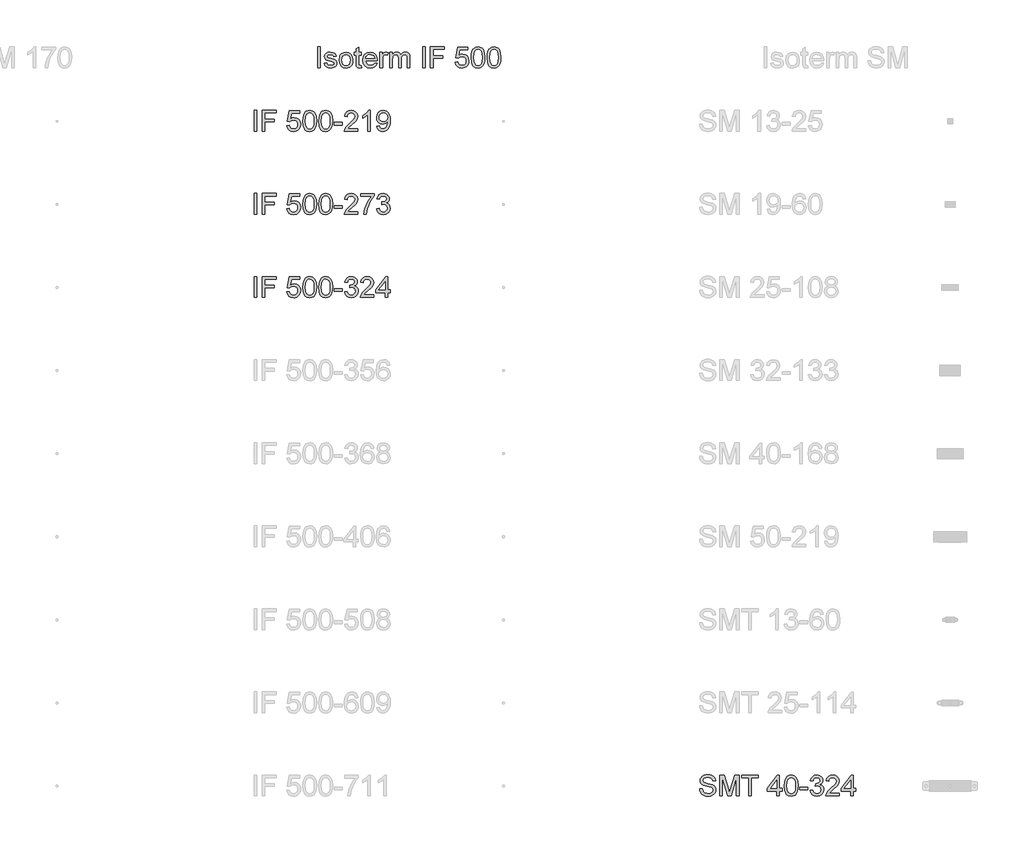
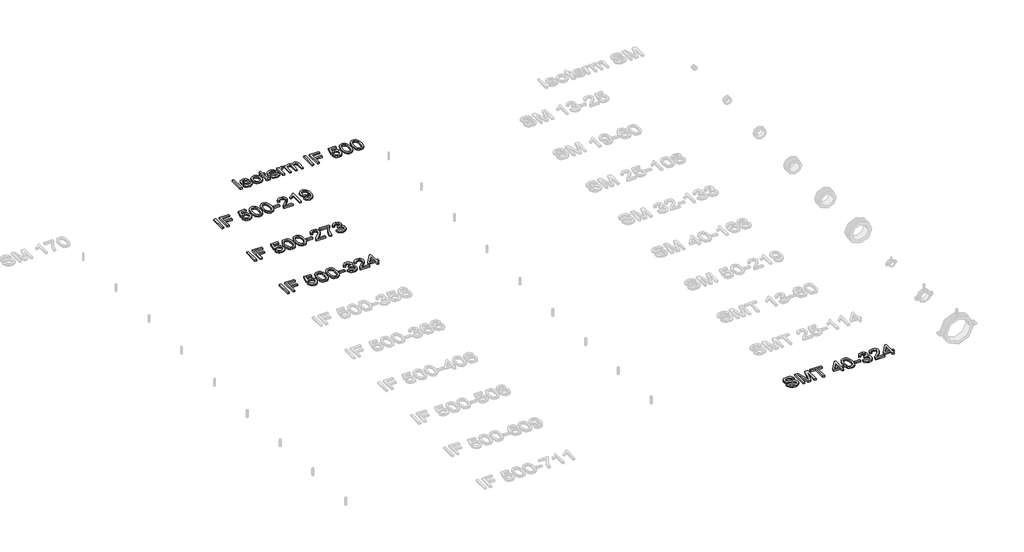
# One storey, part 5 of 10: 5 proxies.
"""IFC4 building model written with IfcOpenShell, lengths in millimetres."""

from ifc_helpers import new_model, si_unit, origin, origin_with_axes, place, context, project, spatial, polyline, outline, extrude, element, save

model = new_model("IFC4")

# Units and contexts
model_context = context("Model", 3, world=origin())
ifc_project = project(units=[si_unit("LENGTHUNIT", "METRE", prefix="MILLI")], contexts=[model_context])

# Site, building, storey
site = spatial("IfcSite", under=ifc_project)
building = spatial("IfcBuilding", under=site)
storey = spatial("IfcBuildingStorey", under=building, Name="Этаж 01", Elevation=0.0)

# Proxies
placement = place(None, origin())
element("IfcBuildingElementProxy", 1, Name="200 мм Arial", ObjectType="200 мм Arial", at=placement, inside=storey, context=model_context, shape_type="SweptSolid", body=[
    extrude(outline(polyline([(5484.860356, -183.6730679), (5484.860356, 17.2395524), (5509.9744335, 17.2395524), (5509.9744335, -183.6730679), (5484.860356, -183.6730679)])), origin_with_axes(), (0.0, 0.0, 1.0), 20.0),
    extrude(outline(polyline([(5547.6455499, -139.7234322), (5572.7596274, -136.5841725), (5576.7204902, -147.3263267), (5584.3846984, -155.2235269), (5595.801303, -160.0795692), (5611.0193549, -161.69825), (5626.0534658, -160.2144593), (5636.6239418, -155.7630872), (5642.8779357, -149.3128895), (5644.9626003, -141.8326223), (5642.8656729, -135.4314756), (5636.5748908, -130.5509078), (5610.7250493, -123.3894716), (5572.9067802, -111.102213), (5563.3357169, -104.9279268), (5556.4011413, -96.7548151), (5550.7848095, -76.4967799), (5555.2974954, -57.7838491), (5567.6092795, -43.4855022), (5583.575358, -36.0542859), (5605.1822939, -32.9886026), (5635.741025, -37.9182214), (5647.1698923, -43.7184942), (5655.1651943, -51.2600751), (5663.7981585, -73.7989786), (5638.6840809, -76.9382383), (5635.5141644, -69.0349068), (5629.2417764, -63.0813498), (5607.1443312, -58.1026802), (5592.723357, -59.2921653), (5583.1093742, -62.8606207), (5577.7015089, -68.0109686), (5575.8988871, -73.9461314), (5578.890994, -81.2547204), (5588.2597221, -86.7974758), (5609.8911834, -92.1440275), (5646.7529594, -103.9653022), (5663.8717349, -117.3562069), (5668.5254421, -127.2031816), (5670.0766778, -139.1838719), (5668.255662, -151.5692324), (5662.7926143, -163.2188289), (5653.8960014, -173.2190878), (5641.7742897, -180.6564355), (5627.1325863, -185.2733545), (5610.6759984, -186.8123276), (5585.3534544, -183.8447461), (5566.8735155, -174.9420018), (5554.5372059, -160.2021966), (5547.6455499, -139.7234322)])), origin_with_axes(), (0.0, 0.0, 1.0), 20.0),
    extrude(outline(polyline([(5692.0514957, -109.9004651), (5697.4838865, -74.3262762), (5704.274375, -60.5031102), (5713.7810589, -49.3225632), (5733.9164667, -37.0720928), (5758.0250002, -32.9886026), (5784.4082706, -37.9611409), (5805.4817775, -52.8787558), (5819.2957465, -76.564225), (5823.9004028, -107.8403259), (5821.8647891, -133.2119209), (5815.7579479, -152.5257256), (5805.757689, -166.9896194), (5792.041822, -177.8114814), (5775.750781, -184.562116), (5758.0250002, -186.8123276), (5731.3228987, -181.8581834), (5710.2739172, -166.9957508), (5696.6071011, -142.8136409), (5692.0514957, -109.9004651)]), holes=[polyline([(5717.1655732, -109.8514142), (5720.071841, -132.5803901), (5728.7906443, -148.7733293), (5741.9117688, -158.4670198), (5758.0250002, -161.69825), (5774.0646552, -158.4486257), (5787.1612542, -148.6997529), (5795.8800575, -132.2922159), (5798.7863252, -109.0665992), (5795.8616634, -86.9998109), (5787.0876778, -71.0276009), (5773.9726847, -61.3339104), (5758.0250002, -58.1026802), (5741.9117688, -61.3216476), (5728.7906443, -70.97855), (5720.071841, -87.134701), (5717.1655732, -109.8514142)])]), origin_with_axes(), (0.0, 0.0, 1.0), 20.0),
    extrude(outline(polyline([(5905.5211548, -162.7283196), (5908.6604145, -184.4088319), (5889.8739072, -186.8123276), (5868.8310571, -182.6429983), (5858.3341575, -171.7046403), (5855.2929997, -143.2060484), (5855.2929997, -61.2419399), (5836.4574415, -61.2419399), (5836.4574415, -36.1278623), (5855.2929997, -36.1278623), (5855.2929997, -0.2716305), (5880.4070772, 14.4927002), (5880.4070772, -36.1278623), (5905.5211548, -36.1278623), (5905.5211548, -61.2419399), (5880.4070772, -61.2419399), (5880.4070772, -142.4702844), (5881.7314524, -155.4197306), (5886.023409, -160.0059928), (5894.5827968, -161.69825), (5905.5211548, -162.7283196)])), origin_with_axes(), (0.0, 0.0, 1.0), 20.0),
    extrude(outline(polyline([(6033.9364965, -139.7234322), (6058.5600648, -142.8626919), (6049.6879773, -161.4162072), (6035.5306519, -175.2853584), (6016.4069195, -183.9305853), (5992.6356112, -186.8123276), (5963.1682634, -181.8397893), (5940.4944698, -166.9221744), (5926.0367074, -143.0282388), (5921.2174532, -111.1267384), (5926.0857583, -78.1522489), (5940.6906735, -53.4918925), (5963.0578988, -38.1144251), (5991.2131342, -32.9886026), (6018.4915841, -38.1021624), (6040.2885923, -53.4428416), (6054.5808078, -78.0541471), (6059.3448797, -110.9795856), (6059.1977269, -117.7486143), (5946.3315308, -117.7486143), (5950.6786697, -136.5473843), (5960.7770304, -150.3674846), (5975.3512888, -158.8655587), (5993.1261205, -161.69825), (6017.7496888, -156.4498002), (6026.8976877, -149.6439833), (6033.9364965, -139.7234322)]), holes=[polyline([(5946.3315308, -92.6345368), (6034.2308021, -92.6345368), (6030.8340251, -79.3662595), (6024.1753609, -69.874904), (6009.5336575, -61.0457361), (5991.1150323, -58.1026802), (5974.1863292, -60.4509936), (5960.1884192, -67.4959338), (5950.4579405, -78.4772113), (5946.3315308, -92.6345368)])]), origin_with_axes(), (0.0, 0.0, 1.0), 20.0),
    extrude(outline(polyline([(6084.4589572, -183.6730679), (6084.4589572, -36.1278623), (6106.4337751, -36.1278623), (6106.4337751, -57.9555274), (6122.0319717, -37.844645), (6137.7282701, -32.9886026), (6150.236258, -34.9261145), (6162.9404495, -40.73865), (6154.55274, -63.2530281), (6136.8944043, -58.1026802), (6122.6941592, -63.0568244), (6113.6442622, -76.7910855), (6109.5730348, -106.1235433), (6109.5730348, -183.6730679), (6084.4589572, -183.6730679)])), origin_with_axes(), (0.0, 0.0, 1.0), 20.0),
    extrude(outline(polyline([(6178.636748, -183.6730679), (6178.636748, -36.1278623), (6203.7508255, -36.1278623), (6203.7508255, -60.408074), (6211.3046692, -49.2551182), (6221.0167538, -40.5179208), (6232.5559857, -34.8709322), (6245.5912711, -32.9886026), (6259.5585242, -34.9077204), (6270.7543996, -40.6650736), (6279.1175836, -49.8805176), (6284.5867626, -62.1739076), (6293.7408929, -49.4053367), (6304.1826102, -40.2849289), (6315.9119145, -34.8126842), (6328.9288057, -32.9886026), (6347.8072835, -36.0236291), (6361.7684052, -45.1287085), (6370.395238, -60.5490954), (6373.2708489, -82.5300447), (6373.2708489, -183.6730679), (6348.1567714, -183.6730679), (6348.1567714, -93.3212499), (6345.8268521, -72.3519761), (6337.3900916, -62.0267548), (6323.0426938, -58.1026802), (6309.4371914, -60.6165405), (6298.3455492, -68.1581214), (6290.9695152, -81.2424577), (6288.5108372, -100.3845842), (6288.5108372, -183.6730679), (6263.3967597, -183.6730679), (6263.3967597, -90.5253467), (6261.9436258, -76.3251017), (6257.5842241, -66.1960841), (6249.9138845, -60.1260312), (6238.5279368, -58.1026802), (6219.9376333, -63.4982828), (6212.5799934, -70.1446842), (6207.5767983, -79.2926831), (6203.7508255, -109.262803), (6203.7508255, -183.6730679), (6178.636748, -183.6730679)])), origin_with_axes(), (0.0, 0.0, 1.0), 20.0),
    extrude(outline(polyline([(6495.7019769, -183.6730679), (6495.7019769, 17.2395524), (6520.8160544, 17.2395524), (6520.8160544, -183.6730679), (6495.7019769, -183.6730679)])), origin_with_axes(), (0.0, 0.0, 1.0), 20.0),
    extrude(outline(polyline([(6571.0442095, -183.6730679), (6571.0442095, 17.2395524), (6706.0323763, 17.2395524), (6706.0323763, -7.8745251), (6596.158287, -7.8745251), (6596.158287, -67.5204593), (6690.3360778, -67.5204593), (6690.3360778, -92.6345368), (6596.158287, -92.6345368), (6596.158287, -183.6730679), (6571.0442095, -183.6730679)])), origin_with_axes(), (0.0, 0.0, 1.0), 20.0),
    extrude(outline(polyline([(6809.6279461, -130.3056531), (6834.7420236, -127.1663934), (6839.3528113, -142.2434238), (6847.3971643, -153.0407604), (6858.8382943, -159.5338776), (6873.6394133, -161.69825), (6891.6411056, -158.687749), (6905.1301121, -149.656246), (6913.5546097, -135.6460734), (6916.3627756, -117.6995634), (6913.7324194, -100.8015171), (6905.8413506, -87.8765963), (6892.6282556, -79.6728278), (6874.0318207, -76.9382383), (6851.9834265, -81.3037713), (6837.8812833, -92.6345368), (6812.7672058, -89.4952771), (6834.7420236, 14.1002927), (6932.0590741, 14.1002927), (6932.0590741, -11.0137848), (6855.0491098, -11.0137848), (6844.3069555, -66.3432369), (6862.2473342, -55.4539298), (6881.0461041, -51.8241608), (6904.510844, -56.3245839), (6923.9901957, -69.8258531), (6937.1051888, -90.4027194), (6941.4768532, -116.1299336), (6937.5405158, -141.2440111), (6925.7315038, -162.7283196), (6915.2959179, -173.2650731), (6903.1190238, -180.7913256), (6889.2008217, -185.3070771), (6873.5413114, -186.8123276), (6848.8748236, -182.9434352), (6829.2237937, -171.3367583), (6815.7531813, -153.3411974), (6809.6279461, -130.3056531)])), origin_with_axes(), (0.0, 0.0, 1.0), 20.0),
    extrude(outline(polyline([(6963.451671, -84.8354385), (6965.2972124, -52.6764208), (6970.8338364, -27.0289143), (6980.0063608, -7.5005117), (6992.7596033, 6.3011944), (7009.1855344, 14.5049629), (7029.3761246, 17.2395524), (7044.8516938, 15.6208717), (7058.7085823, 10.7648293), (7070.2968652, 2.8614978), (7078.9666175, -7.8990506), (7090.7388414, -37.6239158), (7095.3005781, -84.8354385), (7093.4734309, -116.8105152), (7087.9919891, -142.396708), (7078.874647, -161.9435047), (7066.1397986, -175.8003932), (7049.6770793, -184.059344), (7029.3761246, -186.8123276), (7003.2810284, -182.0298616), (6983.4644516, -167.6824638), (6974.7088601, -152.5533168), (6968.4548662, -133.7024302), (6963.451671, -84.8354385)]), holes=[polyline([(6988.5657486, -84.7863876), (6991.5088045, -124.2907825), (7000.3379724, -147.1546485), (7013.4836224, -158.0623496), (7029.3761246, -161.69825), (7045.2686268, -158.0500869), (7058.4142767, -147.1055975), (7067.2434446, -124.2294688), (7070.1865006, -84.7863876), (7067.3415465, -46.1710408), (7058.8066842, -23.1293652), (7045.6855597, -11.6882351), (7029.081819, -7.8745251), (7013.360995, -11.234514), (7000.7303799, -21.3144807), (6991.6069064, -45.7908961), (6988.5657486, -84.7863876)])]), origin_with_axes(), (0.0, 0.0, 1.0), 20.0),
    extrude(outline(polyline([(7117.2753959, -84.8354385), (7119.1209373, -52.6764208), (7124.6575613, -27.0289143), (7133.8300857, -7.5005117), (7146.5833282, 6.3011944), (7163.0092593, 14.5049629), (7183.1998495, 17.2395524), (7198.6754187, 15.6208717), (7212.5323072, 10.7648293), (7224.1205901, 2.8614978), (7232.7903424, -7.8990506), (7244.5625663, -37.6239158), (7249.124303, -84.8354385), (7247.2971558, -116.8105152), (7241.815714, -142.396708), (7232.6983719, -161.9435047), (7219.9635235, -175.8003932), (7203.5008042, -184.059344), (7183.1998495, -186.8123276), (7157.1047533, -182.0298616), (7137.2881765, -167.6824638), (7128.532585, -152.5533168), (7122.2785911, -133.7024302), (7117.2753959, -84.8354385)]), holes=[polyline([(7142.3894735, -84.7863876), (7145.3325294, -124.2907825), (7154.1616973, -147.1546485), (7167.3073473, -158.0623496), (7183.1998495, -161.69825), (7199.0923517, -158.0500869), (7212.2380016, -147.1055975), (7221.0671695, -124.2294688), (7224.0102255, -84.7863876), (7221.1652714, -46.1710408), (7212.6304091, -23.1293652), (7199.5092846, -11.6882351), (7182.9055439, -7.8745251), (7167.18472, -11.234514), (7154.5541048, -21.3144807), (7145.4306313, -45.7908961), (7142.3894735, -84.7863876)])]), origin_with_axes(), (0.0, 0.0, 1.0), 20.0),
])
element("IfcBuildingElementProxy", 2, Name="200 мм Arial", ObjectType="200 мм Arial", at=placement, inside=storey, context=model_context, shape_type="SweptSolid", body=[
    extrude(outline(polyline([(4874.6668985, -794.9781747), (4874.6668985, -594.0655544), (4899.780976, -594.0655544), (4899.780976, -794.9781747), (4874.6668985, -794.9781747)])), origin_with_axes(), (0.0, 0.0, 1.0), 20.0),
    extrude(outline(polyline([(4950.0091311, -794.9781747), (4950.0091311, -594.0655544), (5084.9972979, -594.0655544), (5084.9972979, -619.179632), (4975.1232086, -619.179632), (4975.1232086, -678.8255661), (5069.3009994, -678.8255661), (5069.3009994, -703.9396437), (4975.1232086, -703.9396437), (4975.1232086, -794.9781747), (4950.0091311, -794.9781747)])), origin_with_axes(), (0.0, 0.0, 1.0), 20.0),
    extrude(outline(polyline([(5188.5928677, -741.61076), (5213.7069453, -738.4715003), (5218.3177329, -753.5485307), (5226.3620859, -764.3458673), (5237.8032159, -770.8389845), (5252.6043349, -773.0033569), (5270.6060272, -769.9928559), (5284.0950337, -760.9613529), (5292.5195314, -746.9511803), (5295.3276973, -729.0046703), (5292.697341, -712.1066239), (5284.8062722, -699.1817032), (5271.5931772, -690.9779347), (5252.9967423, -688.2433452), (5230.9483481, -692.6088782), (5216.8462049, -703.9396437), (5191.7321274, -700.800384), (5213.7069453, -597.2048141), (5311.0239957, -597.2048141), (5311.0239957, -622.3188917), (5234.0140314, -622.3188917), (5223.2718771, -677.6483437), (5241.2122558, -666.7590367), (5260.0110257, -663.1292677), (5283.4757656, -667.6296907), (5302.9551173, -681.13096), (5316.0701104, -701.7078262), (5320.4417748, -727.4350404), (5316.5054374, -752.5491179), (5304.6964254, -774.0334265), (5294.2608395, -784.5701799), (5282.0839454, -792.0964324), (5268.1657433, -796.6121839), (5252.506233, -798.1174344), (5227.8397452, -794.2485421), (5208.1887153, -782.6418652), (5194.7181029, -764.6463042), (5188.5928677, -741.61076)])), origin_with_axes(), (0.0, 0.0, 1.0), 20.0),
    extrude(outline(polyline([(5342.4165926, -696.1405454), (5344.262134, -663.9815276), (5349.798758, -638.3340212), (5358.9712824, -618.8056186), (5371.7245249, -605.0039124), (5388.150456, -596.8001439), (5408.3410462, -594.0655544), (5423.8166154, -595.6842352), (5437.6735039, -600.5402775), (5449.2617868, -608.4436091), (5457.9315391, -619.2041574), (5469.703763, -648.9290226), (5474.2654997, -696.1405454), (5472.4383525, -728.1156221), (5466.9569107, -753.7018149), (5457.8395686, -773.2486115), (5445.1047202, -787.1055), (5428.6420009, -795.3644508), (5408.3410462, -798.1174344), (5382.24595, -793.3349685), (5362.4293732, -778.9875707), (5353.6737817, -763.8584236), (5347.4197878, -745.007537), (5342.4165926, -696.1405454)]), holes=[polyline([(5367.5306702, -696.0914944), (5370.4737261, -735.5958893), (5379.302894, -758.4597553), (5392.448544, -769.3674565), (5408.3410462, -773.0033569), (5424.2335484, -769.3551938), (5437.3791983, -758.4107044), (5446.2083662, -735.5345757), (5449.1514222, -696.0914944), (5446.3064681, -657.4761477), (5437.7716058, -634.434472), (5424.6504813, -622.993342), (5408.0467406, -619.179632), (5392.3259166, -622.5396209), (5379.6953015, -632.6195875), (5370.571828, -657.0960029), (5367.5306702, -696.0914944)])]), origin_with_axes(), (0.0, 0.0, 1.0), 20.0),
    extrude(outline(polyline([(5496.2403175, -696.1405454), (5498.0858589, -663.9815276), (5503.6224829, -638.3340212), (5512.7950073, -618.8056186), (5525.5482498, -605.0039124), (5541.9741809, -596.8001439), (5562.1647711, -594.0655544), (5577.6403403, -595.6842352), (5591.4972288, -600.5402775), (5603.0855117, -608.4436091), (5611.755264, -619.2041574), (5623.5274879, -648.9290226), (5628.0892246, -696.1405454), (5626.2620774, -728.1156221), (5620.7806357, -753.7018149), (5611.6632935, -773.2486115), (5598.9284451, -787.1055), (5582.4657259, -795.3644508), (5562.1647711, -798.1174344), (5536.0696749, -793.3349685), (5516.2530981, -778.9875707), (5507.4975066, -763.8584236), (5501.2435127, -745.007537), (5496.2403175, -696.1405454)]), holes=[polyline([(5521.3543951, -696.0914944), (5524.297451, -735.5958893), (5533.1266189, -758.4597553), (5546.2722689, -769.3674565), (5562.1647711, -773.0033569), (5578.0572733, -769.3551938), (5591.2029232, -758.4107044), (5600.0320911, -735.5345757), (5602.9751471, -696.0914944), (5600.130193, -657.4761477), (5591.5953307, -634.434472), (5578.4742062, -622.993342), (5561.8704655, -619.179632), (5546.1496416, -622.5396209), (5533.5190264, -632.6195875), (5524.3955529, -657.0960029), (5521.3543951, -696.0914944)])]), origin_with_axes(), (0.0, 0.0, 1.0), 20.0),
    extrude(outline(polyline([(5643.7855231, -735.3322406), (5643.7855231, -710.218163), (5722.2670154, -710.218163), (5722.2670154, -735.3322406), (5643.7855231, -735.3322406)])), origin_with_axes(), (0.0, 0.0, 1.0), 20.0),
    extrude(outline(polyline([(5872.9514806, -769.8640972), (5872.9514806, -794.9781747), (5741.1025735, -794.9781747), (5743.8003748, -777.6631955), (5759.0552149, -751.0040136), (5790.4968628, -721.892285), (5833.8578873, -680.0518394), (5841.9880794, -665.6308652), (5844.6981434, -651.6022985), (5842.1413635, -639.0268656), (5834.4710239, -628.5728856), (5822.680406, -621.5279454), (5807.7627911, -619.179632), (5792.0971494, -621.4727631), (5779.9263868, -628.3521564), (5772.0721062, -639.2782516), (5769.3559108, -653.7114886), (5744.2418332, -650.5722289), (5750.3302803, -626.2797545), (5763.4943243, -608.5355796), (5783.0472524, -597.6830607), (5808.3023513, -594.0655544), (5833.7413913, -598.0877309), (5853.2575311, -610.1542603), (5865.6735485, -628.1804781), (5869.8122209, -650.0817196), (5865.348586, -673.8959474), (5850.5106789, -698.5195156), (5814.5318198, -732.9287449), (5785.6408204, -757.0863292), (5774.310055, -769.8640972), (5872.9514806, -769.8640972)])), origin_with_axes(), (0.0, 0.0, 1.0), 20.0),
    extrude(outline(polyline([(5992.2433489, -794.9781747), (5967.1292714, -794.9781747), (5967.1292714, -638.4075976), (5943.339569, -655.3546948), (5916.9011163, -668.0343609), (5916.9011163, -644.2937095), (5953.7138413, -620.7983127), (5967.1844537, -607.2234671), (5976.0565411, -594.0655544), (5992.2433489, -594.0655544), (5992.2433489, -794.9781747)])), origin_with_axes(), (0.0, 0.0, 1.0), 20.0),
    extrude(outline(polyline([(6055.0285428, -744.7500196), (6080.1426203, -741.61076), (6084.4345769, -755.8661873), (6091.4243348, -765.5721406), (6100.9402158, -771.1455528), (6112.8105415, -773.0033569), (6133.1421531, -768.2208909), (6146.9254652, -755.443123), (6155.1414964, -733.6154579), (6158.7712654, -704.4792039), (6158.6241126, -699.5741106), (6149.9237034, -710.1936376), (6138.5377557, -718.6058725), (6125.2878725, -724.0873143), (6110.995657, -725.9144615), (6088.0950028, -721.4508266), (6069.032584, -708.059922), (6056.1751083, -687.3726911), (6051.8892831, -661.0200775), (6056.3835748, -633.7968099), (6069.8664499, -612.4596542), (6090.1183537, -598.6640794), (6114.9197316, -594.0655544), (6133.6510565, -596.6897793), (6150.702387, -604.562454), (6164.9639456, -617.2911711), (6175.3259552, -634.483523), (6181.6351314, -658.2486999), (6183.7381901, -690.6958918), (6181.6412628, -725.0989897), (6175.3504806, -751.6907266), (6164.9210261, -771.6728503), (6150.4080814, -786.2471087), (6132.4370459, -795.149853), (6111.6333191, -798.1174344), (6090.1612733, -794.6164241), (6073.0302351, -784.1133931), (6061.0495447, -767.2705291), (6055.0285428, -744.7500196)]), holes=[polyline([(6158.6241126, -660.4314664), (6155.9140486, -643.4107927), (6147.7838565, -630.3141937), (6135.165504, -621.9632724), (6118.990959, -619.179632), (6102.21554, -622.1778702), (6088.7755844, -631.172585), (6079.9464166, -644.937503), (6077.0033606, -662.2463509), (6079.787001, -677.7648397), (6088.1379223, -690.0827552), (6101.2467841, -698.1209768), (6118.3042459, -700.800384), (6134.3500323, -698.1209768), (6147.2688217, -690.0827552), (6155.7852899, -677.3111186), (6158.6241126, -660.4314664)])]), origin_with_axes(), (0.0, 0.0, 1.0), 20.0),
])
element("IfcBuildingElementProxy", 3, Name="200 мм Arial", ObjectType="200 мм Arial", at=placement, inside=storey, context=model_context, shape_type="SweptSolid", body=[
    extrude(outline(polyline([(4874.6668985, -1594.9781747), (4874.6668985, -1394.0655544), (4899.780976, -1394.0655544), (4899.780976, -1594.9781747), (4874.6668985, -1594.9781747)])), origin_with_axes(), (0.0, 0.0, 1.0), 20.0),
    extrude(outline(polyline([(4950.0091311, -1594.9781747), (4950.0091311, -1394.0655544), (5084.9972979, -1394.0655544), (5084.9972979, -1419.179632), (4975.1232086, -1419.179632), (4975.1232086, -1478.8255661), (5069.3009994, -1478.8255661), (5069.3009994, -1503.9396437), (4975.1232086, -1503.9396437), (4975.1232086, -1594.9781747), (4950.0091311, -1594.9781747)])), origin_with_axes(), (0.0, 0.0, 1.0), 20.0),
    extrude(outline(polyline([(5188.5928677, -1541.61076), (5213.7069453, -1538.4715003), (5218.3177329, -1553.5485307), (5226.3620859, -1564.3458673), (5237.8032159, -1570.8389845), (5252.6043349, -1573.0033569), (5270.6060272, -1569.9928559), (5284.0950337, -1560.9613529), (5292.5195314, -1546.9511803), (5295.3276973, -1529.0046703), (5292.697341, -1512.1066239), (5284.8062722, -1499.1817032), (5271.5931772, -1490.9779347), (5252.9967423, -1488.2433452), (5230.9483481, -1492.6088782), (5216.8462049, -1503.9396437), (5191.7321274, -1500.800384), (5213.7069453, -1397.2048141), (5311.0239957, -1397.2048141), (5311.0239957, -1422.3188917), (5234.0140314, -1422.3188917), (5223.2718771, -1477.6483437), (5241.2122558, -1466.7590367), (5260.0110257, -1463.1292677), (5283.4757656, -1467.6296907), (5302.9551173, -1481.13096), (5316.0701104, -1501.7078262), (5320.4417748, -1527.4350404), (5316.5054374, -1552.5491179), (5304.6964254, -1574.0334265), (5294.2608395, -1584.5701799), (5282.0839454, -1592.0964324), (5268.1657433, -1596.6121839), (5252.506233, -1598.1174344), (5227.8397452, -1594.2485421), (5208.1887153, -1582.6418652), (5194.7181029, -1564.6463042), (5188.5928677, -1541.61076)])), origin_with_axes(), (0.0, 0.0, 1.0), 20.0),
    extrude(outline(polyline([(5342.4165926, -1496.1405454), (5344.262134, -1463.9815276), (5349.798758, -1438.3340212), (5358.9712824, -1418.8056186), (5371.7245249, -1405.0039124), (5388.150456, -1396.8001439), (5408.3410462, -1394.0655544), (5423.8166154, -1395.6842352), (5437.6735039, -1400.5402775), (5449.2617868, -1408.4436091), (5457.9315391, -1419.2041574), (5469.703763, -1448.9290226), (5474.2654997, -1496.1405454), (5472.4383525, -1528.1156221), (5466.9569107, -1553.7018149), (5457.8395686, -1573.2486115), (5445.1047202, -1587.1055), (5428.6420009, -1595.3644508), (5408.3410462, -1598.1174344), (5382.24595, -1593.3349685), (5362.4293732, -1578.9875707), (5353.6737817, -1563.8584236), (5347.4197878, -1545.007537), (5342.4165926, -1496.1405454)]), holes=[polyline([(5367.5306702, -1496.0914944), (5370.4737261, -1535.5958893), (5379.302894, -1558.4597553), (5392.448544, -1569.3674565), (5408.3410462, -1573.0033569), (5424.2335484, -1569.3551938), (5437.3791983, -1558.4107044), (5446.2083662, -1535.5345757), (5449.1514222, -1496.0914944), (5446.3064681, -1457.4761477), (5437.7716058, -1434.434472), (5424.6504813, -1422.993342), (5408.0467406, -1419.179632), (5392.3259166, -1422.5396209), (5379.6953015, -1432.6195875), (5370.571828, -1457.0960029), (5367.5306702, -1496.0914944)])]), origin_with_axes(), (0.0, 0.0, 1.0), 20.0),
    extrude(outline(polyline([(5496.2403175, -1496.1405454), (5498.0858589, -1463.9815276), (5503.6224829, -1438.3340212), (5512.7950073, -1418.8056186), (5525.5482498, -1405.0039124), (5541.9741809, -1396.8001439), (5562.1647711, -1394.0655544), (5577.6403403, -1395.6842352), (5591.4972288, -1400.5402775), (5603.0855117, -1408.4436091), (5611.755264, -1419.2041574), (5623.5274879, -1448.9290226), (5628.0892246, -1496.1405454), (5626.2620774, -1528.1156221), (5620.7806357, -1553.7018149), (5611.6632935, -1573.2486115), (5598.9284451, -1587.1055), (5582.4657259, -1595.3644508), (5562.1647711, -1598.1174344), (5536.0696749, -1593.3349685), (5516.2530981, -1578.9875707), (5507.4975066, -1563.8584236), (5501.2435127, -1545.007537), (5496.2403175, -1496.1405454)]), holes=[polyline([(5521.3543951, -1496.0914944), (5524.297451, -1535.5958893), (5533.1266189, -1558.4597553), (5546.2722689, -1569.3674565), (5562.1647711, -1573.0033569), (5578.0572733, -1569.3551938), (5591.2029232, -1558.4107044), (5600.0320911, -1535.5345757), (5602.9751471, -1496.0914944), (5600.130193, -1457.4761477), (5591.5953307, -1434.434472), (5578.4742062, -1422.993342), (5561.8704655, -1419.179632), (5546.1496416, -1422.5396209), (5533.5190264, -1432.6195875), (5524.3955529, -1457.0960029), (5521.3543951, -1496.0914944)])]), origin_with_axes(), (0.0, 0.0, 1.0), 20.0),
    extrude(outline(polyline([(5643.7855231, -1535.3322406), (5643.7855231, -1510.218163), (5722.2670154, -1510.218163), (5722.2670154, -1535.3322406), (5643.7855231, -1535.3322406)])), origin_with_axes(), (0.0, 0.0, 1.0), 20.0),
    extrude(outline(polyline([(5872.9514806, -1569.8640972), (5872.9514806, -1594.9781747), (5741.1025735, -1594.9781747), (5743.8003748, -1577.6631955), (5759.0552149, -1551.0040136), (5790.4968628, -1521.892285), (5833.8578873, -1480.0518394), (5841.9880794, -1465.6308652), (5844.6981434, -1451.6022985), (5842.1413635, -1439.0268656), (5834.4710239, -1428.5728856), (5822.680406, -1421.5279454), (5807.7627911, -1419.179632), (5792.0971494, -1421.4727631), (5779.9263868, -1428.3521564), (5772.0721062, -1439.2782516), (5769.3559108, -1453.7114886), (5744.2418332, -1450.5722289), (5750.3302803, -1426.2797545), (5763.4943243, -1408.5355796), (5783.0472524, -1397.6830607), (5808.3023513, -1394.0655544), (5833.7413913, -1398.0877309), (5853.2575311, -1410.1542603), (5865.6735485, -1428.1804781), (5869.8122209, -1450.0817196), (5865.348586, -1473.8959474), (5850.5106789, -1498.5195156), (5814.5318198, -1532.9287449), (5785.6408204, -1557.0863292), (5774.310055, -1569.8640972), (5872.9514806, -1569.8640972)])), origin_with_axes(), (0.0, 0.0, 1.0), 20.0),
    extrude(outline(polyline([(5898.0655581, -1422.3188917), (5898.0655581, -1397.2048141), (6029.9144652, -1397.2048141), (6029.9144652, -1417.5119003), (6011.1218266, -1441.2954712), (5992.513129, -1471.5415026), (5976.0994607, -1505.4908794), (5963.8919098, -1540.3844866), (5954.5722326, -1594.9781747), (5929.4581551, -1594.9781747), (5932.1743505, -1569.091545), (5939.4400199, -1538.3243475), (5951.0589596, -1505.7116086), (5966.8349658, -1474.2883548), (5985.253591, -1445.8817334), (6004.8003877, -1422.3188917), (5898.0655581, -1422.3188917)])), origin_with_axes(), (0.0, 0.0, 1.0), 20.0),
    extrude(outline(polyline([(6051.8892831, -1541.61076), (6077.0033606, -1538.4715003), (6082.6258238, -1554.2536379), (6090.8602491, -1564.909953), (6102.1113068, -1570.9800059), (6116.783667, -1573.0033569), (6134.0005444, -1570.2197164), (6147.2933471, -1561.8687952), (6155.7914212, -1549.4098583), (6158.6241126, -1534.302171), (6155.8159467, -1519.9609045), (6147.391449, -1508.3297021), (6134.6382065, -1500.6225743), (6118.8438062, -1498.0535317), (6101.2345214, -1500.800384), (6104.0304245, -1475.6863064), (6108.052601, -1475.980612), (6123.0989746, -1474.1779902), (6136.5511929, -1468.7701249), (6146.0425484, -1459.622126), (6149.2063335, -1446.5991033), (6146.9132024, -1435.7527158), (6140.0338091, -1426.9542048), (6129.5369095, -1421.1232752), (6116.3912596, -1419.179632), (6103.2210841, -1421.1416693), (6092.4544044, -1427.0277812), (6084.5939924, -1436.8379677), (6080.1426203, -1450.5722289), (6055.0285428, -1447.4329692), (6062.4229709, -1424.8818029), (6075.5808836, -1408.0450702), (6093.5825759, -1397.5604334), (6115.5083428, -1394.0655544), (6131.2966117, -1395.7884684), (6145.7972937, -1400.9572105), (6158.0232387, -1409.111928), (6166.9872966, -1419.7927686), (6172.4871325, -1432.0984214), (6174.3204111, -1445.1275754), (6172.5791029, -1457.2676812), (6167.3551786, -1468.2796156), (6158.7222145, -1477.6606065), (6146.7537869, -1484.9078818), (6162.4746108, -1491.2599776), (6174.1242073, -1502.0757082), (6181.3346944, -1516.7664625), (6183.7381901, -1534.7436294), (6178.9311987, -1559.2200448), (6164.5102245, -1579.6742837), (6142.7438731, -1593.5066467), (6115.9007502, -1598.1174344), (6091.6205385, -1594.1810971), (6071.8530127, -1582.372085), (6058.1064888, -1564.3090791), (6051.8892831, -1541.61076)])), origin_with_axes(), (0.0, 0.0, 1.0), 20.0),
])
element("IfcBuildingElementProxy", 4, Name="200 мм Arial", ObjectType="200 мм Arial", at=placement, inside=storey, context=model_context, shape_type="SweptSolid", body=[
    extrude(outline(polyline([(4874.6668985, -2394.9781747), (4874.6668985, -2194.0655544), (4899.780976, -2194.0655544), (4899.780976, -2394.9781747), (4874.6668985, -2394.9781747)])), origin_with_axes(), (0.0, 0.0, 1.0), 20.0),
    extrude(outline(polyline([(4950.0091311, -2394.9781747), (4950.0091311, -2194.0655544), (5084.9972979, -2194.0655544), (5084.9972979, -2219.179632), (4975.1232086, -2219.179632), (4975.1232086, -2278.8255661), (5069.3009994, -2278.8255661), (5069.3009994, -2303.9396437), (4975.1232086, -2303.9396437), (4975.1232086, -2394.9781747), (4950.0091311, -2394.9781747)])), origin_with_axes(), (0.0, 0.0, 1.0), 20.0),
    extrude(outline(polyline([(5188.5928677, -2341.61076), (5213.7069453, -2338.4715003), (5218.3177329, -2353.5485307), (5226.3620859, -2364.3458673), (5237.8032159, -2370.8389845), (5252.6043349, -2373.0033569), (5270.6060272, -2369.9928559), (5284.0950337, -2360.9613529), (5292.5195314, -2346.9511803), (5295.3276973, -2329.0046703), (5292.697341, -2312.1066239), (5284.8062722, -2299.1817032), (5271.5931772, -2290.9779347), (5252.9967423, -2288.2433452), (5230.9483481, -2292.6088782), (5216.8462049, -2303.9396437), (5191.7321274, -2300.800384), (5213.7069453, -2197.2048141), (5311.0239957, -2197.2048141), (5311.0239957, -2222.3188917), (5234.0140314, -2222.3188917), (5223.2718771, -2277.6483437), (5241.2122558, -2266.7590367), (5260.0110257, -2263.1292677), (5283.4757656, -2267.6296907), (5302.9551173, -2281.13096), (5316.0701104, -2301.7078262), (5320.4417748, -2327.4350404), (5316.5054374, -2352.5491179), (5304.6964254, -2374.0334265), (5294.2608395, -2384.5701799), (5282.0839454, -2392.0964324), (5268.1657433, -2396.6121839), (5252.506233, -2398.1174344), (5227.8397452, -2394.2485421), (5208.1887153, -2382.6418652), (5194.7181029, -2364.6463042), (5188.5928677, -2341.61076)])), origin_with_axes(), (0.0, 0.0, 1.0), 20.0),
    extrude(outline(polyline([(5342.4165926, -2296.1405454), (5344.262134, -2263.9815276), (5349.798758, -2238.3340212), (5358.9712824, -2218.8056186), (5371.7245249, -2205.0039124), (5388.150456, -2196.8001439), (5408.3410462, -2194.0655544), (5423.8166154, -2195.6842352), (5437.6735039, -2200.5402775), (5449.2617868, -2208.4436091), (5457.9315391, -2219.2041574), (5469.703763, -2248.9290226), (5474.2654997, -2296.1405454), (5472.4383525, -2328.1156221), (5466.9569107, -2353.7018149), (5457.8395686, -2373.2486115), (5445.1047202, -2387.1055), (5428.6420009, -2395.3644508), (5408.3410462, -2398.1174344), (5382.24595, -2393.3349685), (5362.4293732, -2378.9875707), (5353.6737817, -2363.8584236), (5347.4197878, -2345.007537), (5342.4165926, -2296.1405454)]), holes=[polyline([(5367.5306702, -2296.0914944), (5370.4737261, -2335.5958893), (5379.302894, -2358.4597553), (5392.448544, -2369.3674565), (5408.3410462, -2373.0033569), (5424.2335484, -2369.3551938), (5437.3791983, -2358.4107044), (5446.2083662, -2335.5345757), (5449.1514222, -2296.0914944), (5446.3064681, -2257.4761477), (5437.7716058, -2234.434472), (5424.6504813, -2222.993342), (5408.0467406, -2219.179632), (5392.3259166, -2222.5396209), (5379.6953015, -2232.6195875), (5370.571828, -2257.0960029), (5367.5306702, -2296.0914944)])]), origin_with_axes(), (0.0, 0.0, 1.0), 20.0),
    extrude(outline(polyline([(5496.2403175, -2296.1405454), (5498.0858589, -2263.9815276), (5503.6224829, -2238.3340212), (5512.7950073, -2218.8056186), (5525.5482498, -2205.0039124), (5541.9741809, -2196.8001439), (5562.1647711, -2194.0655544), (5577.6403403, -2195.6842352), (5591.4972288, -2200.5402775), (5603.0855117, -2208.4436091), (5611.755264, -2219.2041574), (5623.5274879, -2248.9290226), (5628.0892246, -2296.1405454), (5626.2620774, -2328.1156221), (5620.7806357, -2353.7018149), (5611.6632935, -2373.2486115), (5598.9284451, -2387.1055), (5582.4657259, -2395.3644508), (5562.1647711, -2398.1174344), (5536.0696749, -2393.3349685), (5516.2530981, -2378.9875707), (5507.4975066, -2363.8584236), (5501.2435127, -2345.007537), (5496.2403175, -2296.1405454)]), holes=[polyline([(5521.3543951, -2296.0914944), (5524.297451, -2335.5958893), (5533.1266189, -2358.4597553), (5546.2722689, -2369.3674565), (5562.1647711, -2373.0033569), (5578.0572733, -2369.3551938), (5591.2029232, -2358.4107044), (5600.0320911, -2335.5345757), (5602.9751471, -2296.0914944), (5600.130193, -2257.4761477), (5591.5953307, -2234.434472), (5578.4742062, -2222.993342), (5561.8704655, -2219.179632), (5546.1496416, -2222.5396209), (5533.5190264, -2232.6195875), (5524.3955529, -2257.0960029), (5521.3543951, -2296.0914944)])]), origin_with_axes(), (0.0, 0.0, 1.0), 20.0),
    extrude(outline(polyline([(5643.7855231, -2335.3322406), (5643.7855231, -2310.218163), (5722.2670154, -2310.218163), (5722.2670154, -2335.3322406), (5643.7855231, -2335.3322406)])), origin_with_axes(), (0.0, 0.0, 1.0), 20.0),
    extrude(outline(polyline([(5744.2418332, -2341.61076), (5769.3559108, -2338.4715003), (5774.9783739, -2354.2536379), (5783.2127993, -2364.909953), (5794.4638569, -2370.9800059), (5809.1362172, -2373.0033569), (5826.3530946, -2370.2197164), (5839.6458973, -2361.8687952), (5848.1439714, -2349.4098583), (5850.9766628, -2334.302171), (5848.1684969, -2319.9609045), (5839.7439992, -2308.3297021), (5826.9907567, -2300.6225743), (5811.1963564, -2298.0535317), (5793.5870715, -2300.800384), (5796.3829747, -2275.6863064), (5800.4051512, -2275.980612), (5815.4515248, -2274.1779902), (5828.9037431, -2268.7701249), (5838.3950985, -2259.622126), (5841.5588837, -2246.5991033), (5839.2657526, -2235.7527158), (5832.3863593, -2226.9542048), (5821.8894597, -2221.1232752), (5808.7438097, -2219.179632), (5795.5736343, -2221.1416693), (5784.8069546, -2227.0277812), (5776.9465426, -2236.8379677), (5772.4951705, -2250.5722289), (5747.3810929, -2247.4329692), (5754.775521, -2224.8818029), (5767.9334337, -2208.0450702), (5785.935126, -2197.5604334), (5807.8608929, -2194.0655544), (5823.6491619, -2195.7884684), (5838.1498439, -2200.9572105), (5850.3757888, -2209.111928), (5859.3398468, -2219.7927686), (5864.8396826, -2232.0984214), (5866.6729612, -2245.1275754), (5864.9316531, -2257.2676812), (5859.7077288, -2268.2796156), (5851.0747646, -2277.6606065), (5839.1063371, -2284.9078818), (5854.827161, -2291.2599776), (5866.4767575, -2302.0757082), (5873.6872446, -2316.7664625), (5876.0907403, -2334.7436294), (5871.2837489, -2359.2200448), (5856.8627747, -2379.6742837), (5835.0964233, -2393.5066467), (5808.2533004, -2398.1174344), (5783.9730887, -2394.1810971), (5764.2055628, -2382.372085), (5750.459039, -2364.3090791), (5744.2418332, -2341.61076)])), origin_with_axes(), (0.0, 0.0, 1.0), 20.0),
    extrude(outline(polyline([(6026.7752055, -2369.8640972), (6026.7752055, -2394.9781747), (5894.9262985, -2394.9781747), (5897.6240998, -2377.6631955), (5912.8789398, -2351.0040136), (5944.3205877, -2321.892285), (5987.6816122, -2280.0518394), (5995.8118043, -2265.6308652), (5998.5218683, -2251.6022985), (5995.9650884, -2239.0268656), (5988.2947488, -2228.5728856), (5976.5041309, -2221.5279454), (5961.586516, -2219.179632), (5945.9208744, -2221.4727631), (5933.7501117, -2228.3521564), (5925.8958311, -2239.2782516), (5923.1796357, -2253.7114886), (5898.0655581, -2250.5722289), (5904.1540052, -2226.2797545), (5917.3180492, -2208.5355796), (5936.8709773, -2197.6830607), (5962.1260762, -2194.0655544), (5987.5651162, -2198.0877309), (6007.0812561, -2210.1542603), (6019.4972734, -2228.1804781), (6023.6359458, -2250.0817196), (6019.172311, -2273.8959474), (6004.3344038, -2298.5195156), (5968.3555447, -2332.9287449), (5939.4645453, -2357.0863292), (5928.1337799, -2369.8640972), (6026.7752055, -2369.8640972)])), origin_with_axes(), (0.0, 0.0, 1.0), 20.0),
    extrude(outline(polyline([(6133.5100351, -2394.9781747), (6133.5100351, -2347.8892793), (6042.471504, -2347.8892793), (6042.471504, -2322.7752018), (6139.7885544, -2197.2048141), (6158.6241126, -2197.2048141), (6158.6241126, -2322.7752018), (6183.7381901, -2322.7752018), (6183.7381901, -2347.8892793), (6158.6241126, -2347.8892793), (6158.6241126, -2394.9781747), (6133.5100351, -2394.9781747)]), holes=[polyline([(6133.5100351, -2322.7752018), (6133.5100351, -2245.1766263), (6073.3735916, -2322.7752018), (6133.5100351, -2322.7752018)])]), origin_with_axes(), (0.0, 0.0, 1.0), 20.0),
])
element("IfcBuildingElementProxy", 5, Name="200 мм Arial", ObjectType="200 мм Arial", at=placement, inside=storey, context=model_context, shape_type="SweptSolid", body=[
    extrude(outline(polyline([(9162.1098597, -7125.9144615), (9187.2239373, -7125.9144615), (9195.3173412, -7151.0530645), (9203.4475333, -7159.9435461), (9215.084867, -7166.9455667), (9229.3096375, -7171.4889093), (9245.2021397, -7173.0033569), (9271.4443887, -7168.4170947), (9288.3914859, -7155.811005), (9293.9587668, -7138.9620096), (9289.7894375, -7123.2902366), (9283.4373417, -7117.091425), (9272.7197129, -7111.8858947), (9236.1522426, -7102.2964374), (9196.7888691, -7089.9110769), (9184.2870127, -7081.4620537), (9175.427188, -7071.2226715), (9170.1480813, -7059.4136595), (9168.3883791, -7046.2557468), (9170.5650143, -7031.5465984), (9177.0949197, -7017.8307313), (9187.8064171, -7006.2056603), (9202.5278283, -6997.7688998), (9220.1984268, -6992.636946), (9239.7574862, -6990.9262947), (9260.9474891, -6992.7166538), (9279.4887417, -6998.0877309), (9294.7190563, -7006.9291615), (9305.9762453, -7019.130581), (9313.1008933, -7033.9317), (9315.9335846, -7050.5722289), (9290.8195071, -7050.5722289), (9286.2087194, -7035.5871689), (9276.5947366, -7024.7714383), (9261.5728885, -7018.2231388), (9240.7385048, -7016.0403723), (9219.4136118, -7018.1986133), (9204.7841712, -7024.6733364), (9196.3228853, -7034.2014801), (9193.5024567, -7045.5199828), (9195.5012822, -7055.1707538), (9201.4977587, -7062.9330639), (9215.6734782, -7069.8737709), (9242.5043384, -7076.9616307), (9286.9444834, -7089.5677204), (9301.2612244, -7098.6789311), (9311.2492206, -7109.9238574), (9317.1169384, -7123.179872), (9319.0728443, -7138.3243475), (9316.8226328, -7153.8060481), (9310.0719982, -7168.3680437), (9299.096852, -7180.900557), (9284.1731057, -7190.2938107), (9266.2265957, -7196.1615285), (9246.1831584, -7198.1174344), (9221.5779843, -7196.0082443), (9201.3260804, -7189.680674), (9185.1944549, -7179.110198), (9172.9501159, -7164.2722909), (9165.0897039, -7146.1970222), (9162.1098597, -7125.9144615)])), origin_with_axes(), (0.0, 0.0, 1.0), 20.0),
    extrude(outline(polyline([(9356.7439606, -7194.9781747), (9356.7439606, -6994.0655544), (9399.9578323, -6994.0655544), (9441.0625139, -7135.6755971), (9449.3521216, -7165.2533095), (9458.3284422, -7133.2230505), (9498.7464108, -6994.0655544), (9541.9602825, -6994.0655544), (9541.9602825, -7194.9781747), (9516.8462049, -7194.9781747), (9516.8462049, -7019.179632), (9466.3727952, -7194.9781747), (9432.3314479, -7194.9781747), (9381.8580382, -7019.179632), (9381.8580382, -7194.9781747), (9356.7439606, -7194.9781747)])), origin_with_axes(), (0.0, 0.0, 1.0), 20.0),
    extrude(outline(polyline([(9636.1380732, -7194.9781747), (9636.1380732, -7019.179632), (9570.2136197, -7019.179632), (9570.2136197, -6994.0655544), (9727.1766043, -6994.0655544), (9727.1766043, -7019.179632), (9661.2521508, -7019.179632), (9661.2521508, -7194.9781747), (9636.1380732, -7194.9781747)])), origin_with_axes(), (0.0, 0.0, 1.0), 20.0),
    extrude(outline(polyline([(9906.1144068, -7194.9781747), (9906.1144068, -7147.8892793), (9815.0758757, -7147.8892793), (9815.0758757, -7122.7752018), (9912.3929262, -6997.2048141), (9931.2284843, -6997.2048141), (9931.2284843, -7122.7752018), (9956.3425619, -7122.7752018), (9956.3425619, -7147.8892793), (9931.2284843, -7147.8892793), (9931.2284843, -7194.9781747), (9906.1144068, -7194.9781747)]), holes=[polyline([(9906.1144068, -7122.7752018), (9906.1144068, -7045.1766263), (9845.9779633, -7122.7752018), (9906.1144068, -7122.7752018)])]), origin_with_axes(), (0.0, 0.0, 1.0), 20.0),
    extrude(outline(polyline([(9978.3173797, -7096.1405454), (9980.162921, -7063.9815276), (9985.6995451, -7038.3340212), (9994.8720695, -7018.8056186), (10007.625312, -7005.0039124), (10024.0512431, -6996.8001439), (10044.2418332, -6994.0655544), (10059.7174025, -6995.6842352), (10073.574291, -7000.5402775), (10085.1625738, -7008.4436091), (10093.8323262, -7019.2041574), (10105.60455, -7048.9290226), (10110.1662868, -7096.1405454), (10108.3391395, -7128.1156221), (10102.8576978, -7153.7018149), (10093.7403557, -7173.2486115), (10081.0055073, -7187.1055), (10064.542788, -7195.3644508), (10044.2418332, -7198.1174344), (10018.146737, -7193.3349685), (9998.3301602, -7178.9875707), (9989.5745687, -7163.8584236), (9983.3205748, -7145.007537), (9978.3173797, -7096.1405454)]), holes=[polyline([(10003.4314572, -7096.0914944), (10006.3745132, -7135.5958893), (10015.2036811, -7158.4597553), (10028.349331, -7169.3674565), (10044.2418332, -7173.0033569), (10060.1343354, -7169.3551938), (10073.2799854, -7158.4107044), (10082.1091533, -7135.5345757), (10085.0522092, -7096.0914944), (10082.2072551, -7057.4761477), (10073.6723928, -7034.434472), (10060.5512684, -7022.993342), (10043.9475276, -7019.179632), (10028.2267037, -7022.5396209), (10015.5960885, -7032.6195875), (10006.4726151, -7057.0960029), (10003.4314572, -7096.0914944)])]), origin_with_axes(), (0.0, 0.0, 1.0), 20.0),
    extrude(outline(polyline([(10125.8625852, -7135.3322406), (10125.8625852, -7110.218163), (10204.3440775, -7110.218163), (10204.3440775, -7135.3322406), (10125.8625852, -7135.3322406)])), origin_with_axes(), (0.0, 0.0, 1.0), 20.0),
    extrude(outline(polyline([(10226.3188954, -7141.61076), (10251.4329729, -7138.4715003), (10257.0554361, -7154.2536379), (10265.2898614, -7164.909953), (10276.5409191, -7170.9800059), (10291.2132793, -7173.0033569), (10308.4301567, -7170.2197164), (10321.7229595, -7161.8687952), (10330.2210335, -7149.4098583), (10333.0537249, -7134.302171), (10330.245559, -7119.9609045), (10321.8210613, -7108.3297021), (10309.0678188, -7100.6225743), (10293.2734185, -7098.0535317), (10275.6641337, -7100.800384), (10278.4600368, -7075.6863064), (10282.4822133, -7075.980612), (10297.5285869, -7074.1779902), (10310.9808052, -7068.7701249), (10320.4721607, -7059.622126), (10323.6359458, -7046.5991033), (10321.3428147, -7035.7527158), (10314.4634214, -7026.9542048), (10303.9665218, -7021.1232752), (10290.8208719, -7019.179632), (10277.6506964, -7021.1416693), (10266.8840167, -7027.0277812), (10259.0236047, -7036.8379677), (10254.5722326, -7050.5722289), (10229.4581551, -7047.4329692), (10236.8525832, -7024.8818029), (10250.0104959, -7008.0450702), (10268.0121882, -6997.5604334), (10289.9379551, -6994.0655544), (10305.726224, -6995.7884684), (10320.226906, -7000.9572105), (10332.452851, -7009.111928), (10341.4169089, -7019.7927686), (10346.9167448, -7032.0984214), (10348.7500234, -7045.1275754), (10347.0087153, -7057.2676812), (10341.7847909, -7068.2796156), (10333.1518268, -7077.6606065), (10321.1833992, -7084.9078818), (10336.9042231, -7091.2599776), (10348.5538196, -7102.0757082), (10355.7643067, -7116.7664625), (10358.1678024, -7134.7436294), (10353.360811, -7159.2200448), (10338.9398368, -7179.6742837), (10317.1734855, -7193.5066467), (10290.3303625, -7198.1174344), (10266.0501509, -7194.1810971), (10246.282625, -7182.372085), (10232.5361011, -7164.3090791), (10226.3188954, -7141.61076)])), origin_with_axes(), (0.0, 0.0, 1.0), 20.0),
    extrude(outline(polyline([(10508.8522677, -7169.8640972), (10508.8522677, -7194.9781747), (10377.0033606, -7194.9781747), (10379.7011619, -7177.6631955), (10394.956002, -7151.0040136), (10426.3976498, -7121.892285), (10469.7586743, -7080.0518394), (10477.8888664, -7065.6308652), (10480.5989304, -7051.6022985), (10478.0421506, -7039.0268656), (10470.371811, -7028.5728856), (10458.581193, -7021.5279454), (10443.6635781, -7019.179632), (10427.9979365, -7021.4727631), (10415.8271738, -7028.3521564), (10407.9728932, -7039.2782516), (10405.2566978, -7053.7114886), (10380.1426203, -7050.5722289), (10386.2310673, -7026.2797545), (10399.3951114, -7008.5355796), (10418.9480394, -6997.6830607), (10444.2031384, -6994.0655544), (10469.6421784, -6998.0877309), (10489.1583182, -7010.1542603), (10501.5743355, -7028.1804781), (10505.713008, -7050.0817196), (10501.2493731, -7073.8959474), (10486.411466, -7098.5195156), (10450.4326068, -7132.9287449), (10421.5416075, -7157.0863292), (10410.210842, -7169.8640972), (10508.8522677, -7169.8640972)])), origin_with_axes(), (0.0, 0.0, 1.0), 20.0),
    extrude(outline(polyline([(10615.5870972, -7194.9781747), (10615.5870972, -7147.8892793), (10524.5485661, -7147.8892793), (10524.5485661, -7122.7752018), (10621.8656166, -6997.2048141), (10640.7011747, -6997.2048141), (10640.7011747, -7122.7752018), (10665.8152523, -7122.7752018), (10665.8152523, -7147.8892793), (10640.7011747, -7147.8892793), (10640.7011747, -7194.9781747), (10615.5870972, -7194.9781747)]), holes=[polyline([(10615.5870972, -7122.7752018), (10615.5870972, -7045.1766263), (10555.4506537, -7122.7752018), (10615.5870972, -7122.7752018)])]), origin_with_axes(), (0.0, 0.0, 1.0), 20.0),
])

save(model, "model.ifc")
